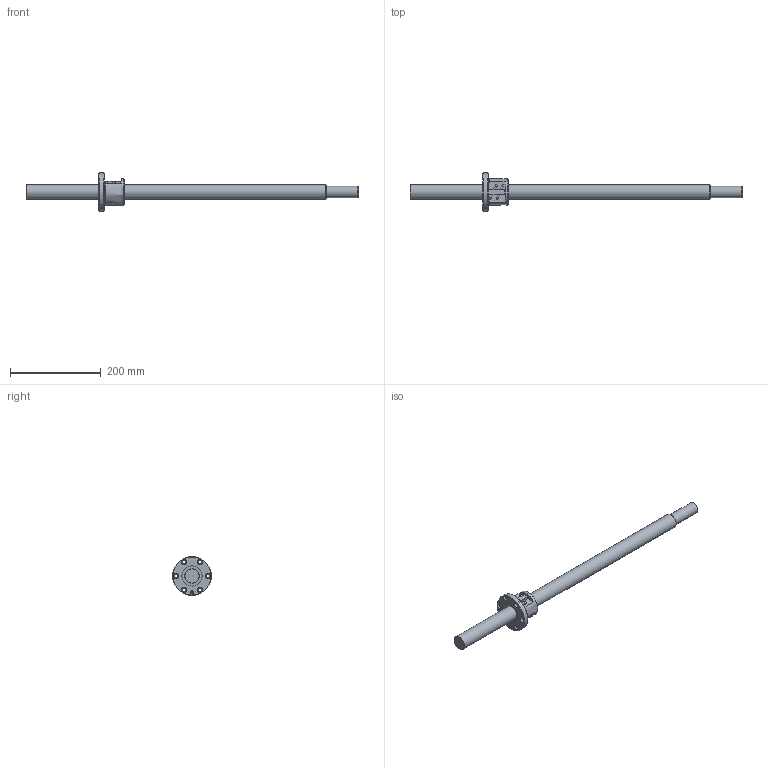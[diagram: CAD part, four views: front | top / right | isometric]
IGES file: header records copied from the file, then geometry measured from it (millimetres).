
Start section: Data from Parasolid IGES Translator 26.0.171, Copyright(c) 2006 Siemens PLM Software. All Rights Reserved.
Global section: file name: BNF3205-5RRG1+730LC5A(00).igs; native system: By Siemens PLM Incorporated; preprocessor: XPlus GENERIC/IGES 26.0.171; author: Noname; organization: Noname; date: 20240715.074752; units: millimetre
Bounding box: 730 x 85 x 85 mm (x, y, z)
Surface area: 103527.9 mm2 (no closed solid volume)
Topology: 0 solids, 0 shells, 71 faces, 356 edges, 331 vertices
Faces by surface type: revolution 47, extrusion 24
